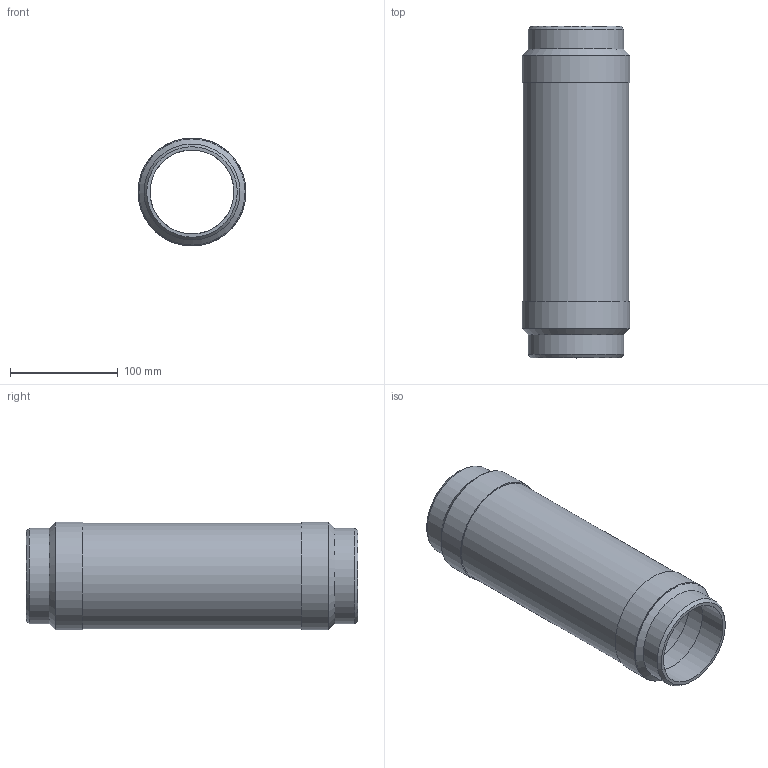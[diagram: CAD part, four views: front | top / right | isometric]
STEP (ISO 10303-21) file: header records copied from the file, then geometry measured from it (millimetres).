
FILE_DESCRIPTION(/* description */ (''),/* implementation_level */ '2;1');
FILE_NAME(/* name */ 'C:\001_Work\Designs\CSAWN\CSAWN-3x12.125.stp',/* time_stamp */ '2016-06-04T18:16:13-04:00',/* author */ ('rramoutar'),/* organization */ ('Mason Industries Inc.'),/* preprocessor_version */ 'ST-DEVELOPER v15.6',/* originating_system */ 'Autodesk Inventor 2015',/* authorisation */ '');
FILE_SCHEMA (('CONFIG_CONTROL_DESIGN'));
Length unit declared in the file: inch
Products named in the file (1): CSAWN-3x12.125
Bounding box: 100.22 x 307.98 x 100.22 mm (x, y, z)
Volume: 135235.9 mm3; surface area: 226915.9 mm2
Topology: 5 solids, 5 shells, 24 faces, 40 edges, 26 vertices
Faces by surface type: cylinder 10, plane 10, cone 4
Full cylindrical faces by diameter (mm): 77.927 x2, 88.9 x2, 97.028 x1, 97.841 x3, 100.222 x2
Entity records: 564 total; most frequent: DIRECTION 98, CARTESIAN_POINT 73, AXIS2_PLACEMENT_3D 49, EDGE_LOOP 48, ORIENTED_EDGE 48, STYLED_ITEM 29, FACE_BOUND 24, FACE_OUTER_BOUND 24
